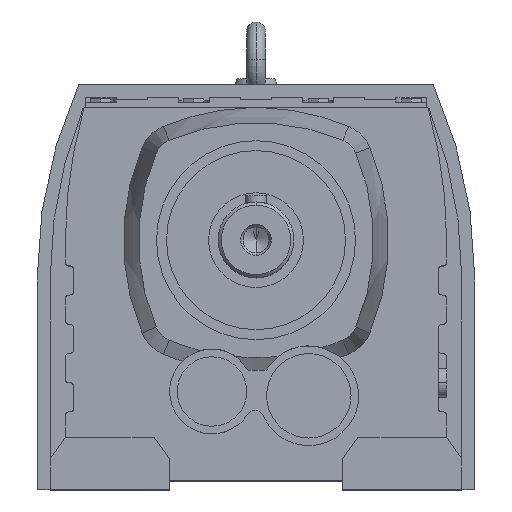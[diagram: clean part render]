
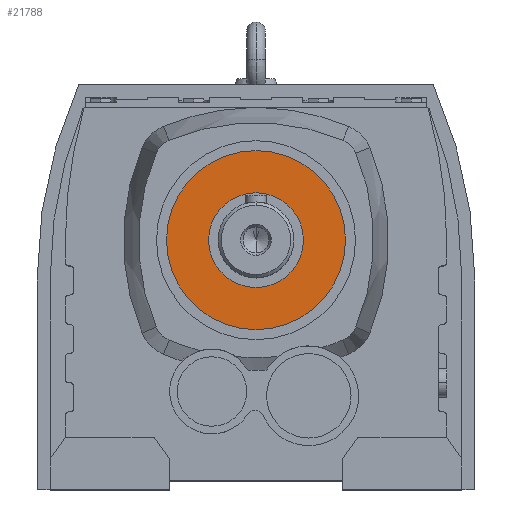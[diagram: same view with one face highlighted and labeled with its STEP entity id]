
A CAD part, top view. The second image highlights one B-rep face of the part: STEP entity #21788.
In plain terms, the highlighted planar face has unit normal (0, 0, 1).
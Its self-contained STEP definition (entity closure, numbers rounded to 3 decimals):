
#19867 = CYLINDRICAL_SURFACE('',#19868,41.344);
#19868 = AXIS2_PLACEMENT_3D('',#19869,#19870,#19871);
#19869 = CARTESIAN_POINT('',(0.,11.2,257.));
#19870 = DIRECTION('',(0.,0.,1.));
#19871 = DIRECTION('',(0.,-1.,0.));
#19897 = CYLINDRICAL_SURFACE('',#19898,41.344);
#19898 = AXIS2_PLACEMENT_3D('',#19899,#19900,#19901);
#19899 = CARTESIAN_POINT('',(0.,11.2,257.));
#19900 = DIRECTION('',(0.,0.,1.));
#19901 = DIRECTION('',(0.,-1.,0.));
#20933 = VERTEX_POINT('',#20934);
#20934 = CARTESIAN_POINT('',(0.,52.544,180.));
#20955 = VERTEX_POINT('',#20956);
#20956 = CARTESIAN_POINT('',(0.,-30.144,180.));
#20975 = EDGE_CURVE('',#20933,#20955,#20976,.T.);
#20976 = SURFACE_CURVE('',#20977,(#20982,#20988),.PCURVE_S1.);
#20977 = CIRCLE('',#20978,41.344);
#20978 = AXIS2_PLACEMENT_3D('',#20979,#20980,#20981);
#20979 = CARTESIAN_POINT('',(0.,11.2,180.));
#20980 = DIRECTION('',(0.,0.,-1.));
#20981 = DIRECTION('',(-1.,0.,0.));
#20982 = PCURVE('',#19867,#20983);
#20983 = DEFINITIONAL_REPRESENTATION('',(#20984),#20987);
#20984 = B_SPLINE_CURVE_WITH_KNOTS('',1,(#20985,#20986),.UNSPECIFIED.,
  .F.,.F.,(2,2),(1.571,4.712),
  .PIECEWISE_BEZIER_KNOTS.);
#20985 = CARTESIAN_POINT('',(3.142,-77.));
#20986 = CARTESIAN_POINT('',(0.,-77.));
#20987 = ( GEOMETRIC_REPRESENTATION_CONTEXT(2) 
PARAMETRIC_REPRESENTATION_CONTEXT() REPRESENTATION_CONTEXT('2D SPACE',''
  ) );
#20988 = PCURVE('',#20989,#20994);
#20989 = PLANE('',#20990);
#20990 = AXIS2_PLACEMENT_3D('',#20991,#20992,#20993);
#20991 = CARTESIAN_POINT('',(-17.834,4.534,180.));
#20992 = DIRECTION('',(0.,0.,-1.));
#20993 = DIRECTION('',(-1.,0.,0.));
#20994 = DEFINITIONAL_REPRESENTATION('',(#20995),#20999);
#20995 = CIRCLE('',#20996,41.344);
#20996 = AXIS2_PLACEMENT_2D('',#20997,#20998);
#20997 = CARTESIAN_POINT('',(-17.834,6.666));
#20998 = DIRECTION('',(1.,0.));
#20999 = ( GEOMETRIC_REPRESENTATION_CONTEXT(2) 
PARAMETRIC_REPRESENTATION_CONTEXT() REPRESENTATION_CONTEXT('2D SPACE',''
  ) );
#21004 = EDGE_CURVE('',#20955,#20933,#21005,.T.);
#21005 = SURFACE_CURVE('',#21006,(#21011,#21017),.PCURVE_S1.);
#21006 = CIRCLE('',#21007,41.344);
#21007 = AXIS2_PLACEMENT_3D('',#21008,#21009,#21010);
#21008 = CARTESIAN_POINT('',(0.,11.2,180.));
#21009 = DIRECTION('',(0.,0.,-1.));
#21010 = DIRECTION('',(-1.,0.,0.));
#21011 = PCURVE('',#19897,#21012);
#21012 = DEFINITIONAL_REPRESENTATION('',(#21013),#21016);
#21013 = B_SPLINE_CURVE_WITH_KNOTS('',1,(#21014,#21015),.UNSPECIFIED.,
  .F.,.F.,(2,2),(4.712,7.854),
  .PIECEWISE_BEZIER_KNOTS.);
#21014 = CARTESIAN_POINT('',(6.283,-77.));
#21015 = CARTESIAN_POINT('',(3.142,-77.));
#21016 = ( GEOMETRIC_REPRESENTATION_CONTEXT(2) 
PARAMETRIC_REPRESENTATION_CONTEXT() REPRESENTATION_CONTEXT('2D SPACE',''
  ) );
#21017 = PCURVE('',#20989,#21018);
#21018 = DEFINITIONAL_REPRESENTATION('',(#21019),#21023);
#21019 = CIRCLE('',#21020,41.344);
#21020 = AXIS2_PLACEMENT_2D('',#21021,#21022);
#21021 = CARTESIAN_POINT('',(-17.834,6.666));
#21022 = DIRECTION('',(1.,0.));
#21023 = ( GEOMETRIC_REPRESENTATION_CONTEXT(2) 
PARAMETRIC_REPRESENTATION_CONTEXT() REPRESENTATION_CONTEXT('2D SPACE',''
  ) );
#21788 = ADVANCED_FACE('',(#21789,#21793),#20989,.F.);
#21789 = FACE_BOUND('',#21790,.T.);
#21790 = EDGE_LOOP('',(#21791,#21792));
#21791 = ORIENTED_EDGE('',*,*,#21004,.F.);
#21792 = ORIENTED_EDGE('',*,*,#20975,.F.);
#21793 = FACE_BOUND('',#21794,.T.);
#21794 = EDGE_LOOP('',(#21795,#21829));
#21795 = ORIENTED_EDGE('',*,*,#21796,.F.);
#21796 = EDGE_CURVE('',#21797,#21799,#21801,.T.);
#21797 = VERTEX_POINT('',#21798);
#21798 = CARTESIAN_POINT('',(0.,-10.675,180.));
#21799 = VERTEX_POINT('',#21800);
#21800 = CARTESIAN_POINT('',(0.,33.075,180.));
#21801 = SURFACE_CURVE('',#21802,(#21807,#21818),.PCURVE_S1.);
#21802 = CIRCLE('',#21803,21.875);
#21803 = AXIS2_PLACEMENT_3D('',#21804,#21805,#21806);
#21804 = CARTESIAN_POINT('',(0.,11.2,180.));
#21805 = DIRECTION('',(0.,0.,1.));
#21806 = DIRECTION('',(-1.,0.,0.));
#21807 = PCURVE('',#20989,#21808);
#21808 = DEFINITIONAL_REPRESENTATION('',(#21809),#21817);
#21809 = ( BOUNDED_CURVE() B_SPLINE_CURVE(2,(#21810,#21811,#21812,#21813
    ,#21814,#21815,#21816),.UNSPECIFIED.,.F.,.F.) 
B_SPLINE_CURVE_WITH_KNOTS((1,2,2,2,2,1),(-2.094,0.,
    2.094,4.189,6.283,8.378),
.UNSPECIFIED.) CURVE() GEOMETRIC_REPRESENTATION_ITEM() 
RATIONAL_B_SPLINE_CURVE((1.,0.5,1.,0.5,1.,0.5,1.)) REPRESENTATION_ITEM(
  '') );
#21810 = CARTESIAN_POINT('',(4.041,6.666));
#21811 = CARTESIAN_POINT('',(4.041,-31.223));
#21812 = CARTESIAN_POINT('',(-28.772,-12.279));
#21813 = CARTESIAN_POINT('',(-61.584,6.666));
#21814 = CARTESIAN_POINT('',(-28.772,25.61));
#21815 = CARTESIAN_POINT('',(4.041,44.554));
#21816 = CARTESIAN_POINT('',(4.041,6.666));
#21817 = ( GEOMETRIC_REPRESENTATION_CONTEXT(2) 
PARAMETRIC_REPRESENTATION_CONTEXT() REPRESENTATION_CONTEXT('2D SPACE',''
  ) );
#21818 = PCURVE('',#21819,#21824);
#21819 = CYLINDRICAL_SURFACE('',#21820,21.875);
#21820 = AXIS2_PLACEMENT_3D('',#21821,#21822,#21823);
#21821 = CARTESIAN_POINT('',(0.,11.2,257.));
#21822 = DIRECTION('',(0.,0.,1.));
#21823 = DIRECTION('',(0.,-1.,0.));
#21824 = DEFINITIONAL_REPRESENTATION('',(#21825),#21828);
#21825 = B_SPLINE_CURVE_WITH_KNOTS('',1,(#21826,#21827),.UNSPECIFIED.,
  .F.,.F.,(2,2),(1.571,4.712),
  .PIECEWISE_BEZIER_KNOTS.);
#21826 = CARTESIAN_POINT('',(0.,-77.));
#21827 = CARTESIAN_POINT('',(3.142,-77.));
#21828 = ( GEOMETRIC_REPRESENTATION_CONTEXT(2) 
PARAMETRIC_REPRESENTATION_CONTEXT() REPRESENTATION_CONTEXT('2D SPACE',''
  ) );
#21829 = ORIENTED_EDGE('',*,*,#21830,.F.);
#21830 = EDGE_CURVE('',#21799,#21797,#21831,.T.);
#21831 = SURFACE_CURVE('',#21832,(#21837,#21848),.PCURVE_S1.);
#21832 = CIRCLE('',#21833,21.875);
#21833 = AXIS2_PLACEMENT_3D('',#21834,#21835,#21836);
#21834 = CARTESIAN_POINT('',(0.,11.2,180.));
#21835 = DIRECTION('',(0.,0.,1.));
#21836 = DIRECTION('',(-1.,0.,0.));
#21837 = PCURVE('',#20989,#21838);
#21838 = DEFINITIONAL_REPRESENTATION('',(#21839),#21847);
#21839 = ( BOUNDED_CURVE() B_SPLINE_CURVE(2,(#21840,#21841,#21842,#21843
    ,#21844,#21845,#21846),.UNSPECIFIED.,.F.,.F.) 
B_SPLINE_CURVE_WITH_KNOTS((1,2,2,2,2,1),(-2.094,0.,
    2.094,4.189,6.283,8.378),
.UNSPECIFIED.) CURVE() GEOMETRIC_REPRESENTATION_ITEM() 
RATIONAL_B_SPLINE_CURVE((1.,0.5,1.,0.5,1.,0.5,1.)) REPRESENTATION_ITEM(
  '') );
#21840 = CARTESIAN_POINT('',(4.041,6.666));
#21841 = CARTESIAN_POINT('',(4.041,-31.223));
#21842 = CARTESIAN_POINT('',(-28.772,-12.279));
#21843 = CARTESIAN_POINT('',(-61.584,6.666));
#21844 = CARTESIAN_POINT('',(-28.772,25.61));
#21845 = CARTESIAN_POINT('',(4.041,44.554));
#21846 = CARTESIAN_POINT('',(4.041,6.666));
#21847 = ( GEOMETRIC_REPRESENTATION_CONTEXT(2) 
PARAMETRIC_REPRESENTATION_CONTEXT() REPRESENTATION_CONTEXT('2D SPACE',''
  ) );
#21848 = PCURVE('',#21849,#21854);
#21849 = CYLINDRICAL_SURFACE('',#21850,21.875);
#21850 = AXIS2_PLACEMENT_3D('',#21851,#21852,#21853);
#21851 = CARTESIAN_POINT('',(0.,11.2,257.));
#21852 = DIRECTION('',(0.,0.,1.));
#21853 = DIRECTION('',(0.,-1.,0.));
#21854 = DEFINITIONAL_REPRESENTATION('',(#21855),#21858);
#21855 = B_SPLINE_CURVE_WITH_KNOTS('',1,(#21856,#21857),.UNSPECIFIED.,
  .F.,.F.,(2,2),(4.712,7.854),
  .PIECEWISE_BEZIER_KNOTS.);
#21856 = CARTESIAN_POINT('',(3.142,-77.));
#21857 = CARTESIAN_POINT('',(6.283,-77.));
#21858 = ( GEOMETRIC_REPRESENTATION_CONTEXT(2) 
PARAMETRIC_REPRESENTATION_CONTEXT() REPRESENTATION_CONTEXT('2D SPACE',''
  ) );
